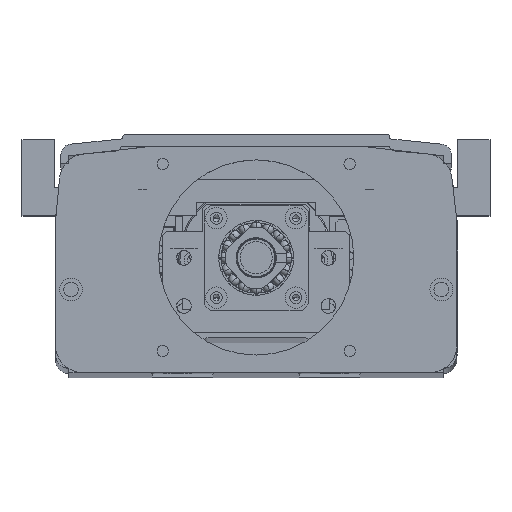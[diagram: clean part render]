
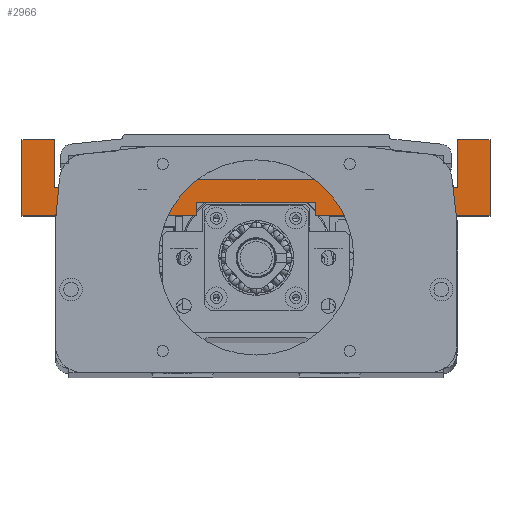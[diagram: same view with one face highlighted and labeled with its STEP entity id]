
A CAD part, top view. The second image highlights one B-rep face of the part: STEP entity #2966.
In plain terms, the highlighted planar face has unit normal (0, 0, 1).
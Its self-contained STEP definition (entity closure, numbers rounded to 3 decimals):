
#318 = ORIENTED_EDGE ( 'NONE', *, *, #35027, .T. ) ;
#1618 = CARTESIAN_POINT ( 'NONE',  ( -45.291, -35.176, 150. ) ) ;
#2758 = VECTOR ( 'NONE', #89941, 1000. ) ;
#2966 = ADVANCED_FACE ( 'NONE', ( #52466 ), #109567, .T. ) ;
#6565 = VECTOR ( 'NONE', #30788, 1000. ) ;
#7508 = VERTEX_POINT ( 'NONE', #95363 ) ;
#7916 = ORIENTED_EDGE ( 'NONE', *, *, #87197, .T. ) ;
#8404 = CARTESIAN_POINT ( 'NONE',  ( 117.709, -63.676, 150. ) ) ;
#8896 = ORIENTED_EDGE ( 'NONE', *, *, #72812, .T. ) ;
#8965 = LINE ( 'NONE', #38868, #59083 ) ;
#9362 = LINE ( 'NONE', #13284, #6565 ) ;
#10092 = DIRECTION ( 'NONE',  ( 0., -1., 0. ) ) ;
#10093 = DIRECTION ( 'NONE',  ( 0., -1., 0. ) ) ;
#13284 = CARTESIAN_POINT ( 'NONE',  ( -45.291, -35.176, 150. ) ) ;
#14082 = LINE ( 'NONE', #114170, #61379 ) ;
#14972 = DIRECTION ( 'NONE',  ( 0., 1., 0. ) ) ;
#15089 = EDGE_CURVE ( 'NONE', #15687, #28608, #61275, .T. ) ;
#15687 = VERTEX_POINT ( 'NONE', #1618 ) ;
#16137 = VECTOR ( 'NONE', #103231, 1000. ) ;
#16974 = ORIENTED_EDGE ( 'NONE', *, *, #50363, .F. ) ;
#17237 = DIRECTION ( 'NONE',  ( -1., 0., 0. ) ) ;
#17273 = EDGE_CURVE ( 'NONE', #91387, #52550, #48802, .T. ) ;
#20225 = CARTESIAN_POINT ( 'NONE',  ( 105.709, -53.176, 150. ) ) ;
#20235 = ORIENTED_EDGE ( 'NONE', *, *, #109180, .T. ) ;
#21525 = EDGE_CURVE ( 'NONE', #33290, #56639, #14082, .T. ) ;
#22830 = ORIENTED_EDGE ( 'NONE', *, *, #58534, .F. ) ;
#24057 = CARTESIAN_POINT ( 'NONE',  ( -36.791, -53.176, 150. ) ) ;
#24165 = VECTOR ( 'NONE', #14972, 1000. ) ;
#28608 = VERTEX_POINT ( 'NONE', #49706 ) ;
#29742 = DIRECTION ( 'NONE',  ( 0., 0., 1. ) ) ;
#29956 = VECTOR ( 'NONE', #42290, 1000. ) ;
#30788 = DIRECTION ( 'NONE',  ( 0., 1., 0. ) ) ;
#32817 = CARTESIAN_POINT ( 'NONE',  ( -36.791, -50.176, 150. ) ) ;
#33290 = VERTEX_POINT ( 'NONE', #59430 ) ;
#34328 = DIRECTION ( 'NONE',  ( 0., 1., 0. ) ) ;
#34449 = DIRECTION ( 'NONE',  ( 0., 1., 0. ) ) ;
#34727 = VECTOR ( 'NONE', #17237, 1000. ) ;
#35027 = EDGE_CURVE ( 'NONE', #56639, #50347, #99662, .T. ) ;
#35373 = VERTEX_POINT ( 'NONE', #98238 ) ;
#35424 = VECTOR ( 'NONE', #110494, 1000. ) ;
#37048 = CARTESIAN_POINT ( 'NONE',  ( 7.959, -58.676, 150. ) ) ;
#37227 = EDGE_CURVE ( 'NONE', #28608, #52582, #8965, .T. ) ;
#38868 = CARTESIAN_POINT ( 'NONE',  ( -57.291, -35.176, 150. ) ) ;
#39798 = LINE ( 'NONE', #94275, #16137 ) ;
#41763 = CARTESIAN_POINT ( 'NONE',  ( 105.709, -35.176, 150. ) ) ;
#42244 = DIRECTION ( 'NONE',  ( -1., 0., 0. ) ) ;
#42290 = DIRECTION ( 'NONE',  ( 1., 0., 0. ) ) ;
#43002 = CARTESIAN_POINT ( 'NONE',  ( 117.709, -35.176, 150. ) ) ;
#45184 = CARTESIAN_POINT ( 'NONE',  ( 105.709, -35.176, 150. ) ) ;
#45360 = CARTESIAN_POINT ( 'NONE',  ( -45.291, -53.176, 150. ) ) ;
#46770 = EDGE_CURVE ( 'NONE', #33290, #35373, #72159, .T. ) ;
#47041 = CARTESIAN_POINT ( 'NONE',  ( -57.291, -63.676, 150. ) ) ;
#48185 = CARTESIAN_POINT ( 'NONE',  ( -57.291, -53.176, 150. ) ) ;
#48790 = DIRECTION ( 'NONE',  ( -1., 0., 0. ) ) ;
#48802 = LINE ( 'NONE', #72327, #96167 ) ;
#49491 = VECTOR ( 'NONE', #34449, 1000. ) ;
#49706 = CARTESIAN_POINT ( 'NONE',  ( -57.291, -35.176, 150. ) ) ;
#50173 = LINE ( 'NONE', #45184, #2758 ) ;
#50347 = VERTEX_POINT ( 'NONE', #59715 ) ;
#50363 = EDGE_CURVE ( 'NONE', #35373, #85886, #55168, .T. ) ;
#51136 = ORIENTED_EDGE ( 'NONE', *, *, #68102, .T. ) ;
#51571 = EDGE_CURVE ( 'NONE', #80157, #56943, #39798, .T. ) ;
#51895 = VERTEX_POINT ( 'NONE', #78621 ) ;
#52407 = VECTOR ( 'NONE', #42244, 1000. ) ;
#52466 = FACE_OUTER_BOUND ( 'NONE', #109657, .T. ) ;
#52550 = VERTEX_POINT ( 'NONE', #20225 ) ;
#52582 = VERTEX_POINT ( 'NONE', #47041 ) ;
#55168 = LINE ( 'NONE', #86584, #52407 ) ;
#56533 = ORIENTED_EDGE ( 'NONE', *, *, #46770, .F. ) ;
#56639 = VERTEX_POINT ( 'NONE', #8404 ) ;
#56943 = VERTEX_POINT ( 'NONE', #45360 ) ;
#57976 = ORIENTED_EDGE ( 'NONE', *, *, #17273, .T. ) ;
#58534 = EDGE_CURVE ( 'NONE', #85886, #108240, #68719, .T. ) ;
#59083 = VECTOR ( 'NONE', #101161, 1000. ) ;
#59430 = CARTESIAN_POINT ( 'NONE',  ( 52.459, -63.676, 150. ) ) ;
#59715 = CARTESIAN_POINT ( 'NONE',  ( 117.709, -35.176, 150. ) ) ;
#61275 = LINE ( 'NONE', #111124, #105897 ) ;
#61379 = VECTOR ( 'NONE', #105186, 1000. ) ;
#63725 = ORIENTED_EDGE ( 'NONE', *, *, #15089, .T. ) ;
#63847 = DIRECTION ( 'NONE',  ( 0., -1., 0. ) ) ;
#65717 = ORIENTED_EDGE ( 'NONE', *, *, #91764, .T. ) ;
#65921 = VECTOR ( 'NONE', #63847, 1000. ) ;
#66989 = LINE ( 'NONE', #107792, #111611 ) ;
#68102 = EDGE_CURVE ( 'NONE', #51895, #91356, #87623, .T. ) ;
#68719 = LINE ( 'NONE', #37048, #65921 ) ;
#72159 = LINE ( 'NONE', #96186, #93059 ) ;
#72327 = CARTESIAN_POINT ( 'NONE',  ( 105.709, -35.176, 150. ) ) ;
#72812 = EDGE_CURVE ( 'NONE', #56943, #15687, #9362, .T. ) ;
#78621 = CARTESIAN_POINT ( 'NONE',  ( 97.209, -50.176, 150. ) ) ;
#79486 = CARTESIAN_POINT ( 'NONE',  ( -45.291, -50.176, 150. ) ) ;
#80157 = VERTEX_POINT ( 'NONE', #24057 ) ;
#82189 = AXIS2_PLACEMENT_3D ( 'NONE', #83059, #29742, #92013 ) ;
#83059 = CARTESIAN_POINT ( 'NONE',  ( -57.291, -63.676, 150. ) ) ;
#83704 = ORIENTED_EDGE ( 'NONE', *, *, #21525, .T. ) ;
#85650 = ORIENTED_EDGE ( 'NONE', *, *, #37227, .T. ) ;
#85886 = VERTEX_POINT ( 'NONE', #104603 ) ;
#86584 = CARTESIAN_POINT ( 'NONE',  ( 7.959, -58.676, 150. ) ) ;
#87197 = EDGE_CURVE ( 'NONE', #91356, #80157, #66989, .T. ) ;
#87623 = LINE ( 'NONE', #79486, #34727 ) ;
#89941 = DIRECTION ( 'NONE',  ( -1., 0., 0. ) ) ;
#91356 = VERTEX_POINT ( 'NONE', #32817 ) ;
#91387 = VERTEX_POINT ( 'NONE', #41763 ) ;
#91764 = EDGE_CURVE ( 'NONE', #50347, #91387, #50173, .T. ) ;
#92013 = DIRECTION ( 'NONE',  ( 1., 0., 0. ) ) ;
#93059 = VECTOR ( 'NONE', #34328, 1000. ) ;
#94275 = CARTESIAN_POINT ( 'NONE',  ( -57.291, -53.176, 150. ) ) ;
#95174 = LINE ( 'NONE', #103725, #24165 ) ;
#95363 = CARTESIAN_POINT ( 'NONE',  ( 97.209, -53.176, 150. ) ) ;
#95615 = CARTESIAN_POINT ( 'NONE',  ( -57.291, -63.676, 150. ) ) ;
#96138 = ORIENTED_EDGE ( 'NONE', *, *, #51571, .T. ) ;
#96167 = VECTOR ( 'NONE', #10093, 1000. ) ;
#96186 = CARTESIAN_POINT ( 'NONE',  ( 52.459, -58.676, 150. ) ) ;
#98238 = CARTESIAN_POINT ( 'NONE',  ( 52.459, -58.676, 150. ) ) ;
#99662 = LINE ( 'NONE', #43002, #49491 ) ;
#99707 = ORIENTED_EDGE ( 'NONE', *, *, #101348, .T. ) ;
#101161 = DIRECTION ( 'NONE',  ( 0., -1., 0. ) ) ;
#101348 = EDGE_CURVE ( 'NONE', #52582, #108240, #103831, .T. ) ;
#103231 = DIRECTION ( 'NONE',  ( -1., 0., 0. ) ) ;
#103725 = CARTESIAN_POINT ( 'NONE',  ( 97.209, -63.676, 150. ) ) ;
#103831 = LINE ( 'NONE', #95615, #29956 ) ;
#104304 = ORIENTED_EDGE ( 'NONE', *, *, #110962, .T. ) ;
#104366 = CARTESIAN_POINT ( 'NONE',  ( 7.959, -63.676, 150. ) ) ;
#104603 = CARTESIAN_POINT ( 'NONE',  ( 7.959, -58.676, 150. ) ) ;
#105186 = DIRECTION ( 'NONE',  ( 1., 0., 0. ) ) ;
#105897 = VECTOR ( 'NONE', #48790, 1000. ) ;
#106471 = LINE ( 'NONE', #48185, #35424 ) ;
#107792 = CARTESIAN_POINT ( 'NONE',  ( -36.791, -63.676, 150. ) ) ;
#108240 = VERTEX_POINT ( 'NONE', #104366 ) ;
#109180 = EDGE_CURVE ( 'NONE', #52550, #7508, #106471, .T. ) ;
#109567 = PLANE ( 'NONE',  #82189 ) ;
#109657 = EDGE_LOOP ( 'NONE', ( #22830, #16974, #56533, #83704, #318, #65717, #57976, #20235, #104304, #51136, #7916, #96138, #8896, #63725, #85650, #99707 ) ) ;
#110494 = DIRECTION ( 'NONE',  ( -1., 0., 0. ) ) ;
#110962 = EDGE_CURVE ( 'NONE', #7508, #51895, #95174, .T. ) ;
#111124 = CARTESIAN_POINT ( 'NONE',  ( -57.291, -35.176, 150. ) ) ;
#111611 = VECTOR ( 'NONE', #10092, 1000. ) ;
#114170 = CARTESIAN_POINT ( 'NONE',  ( -57.291, -63.676, 150. ) ) ;
